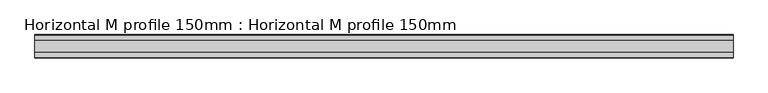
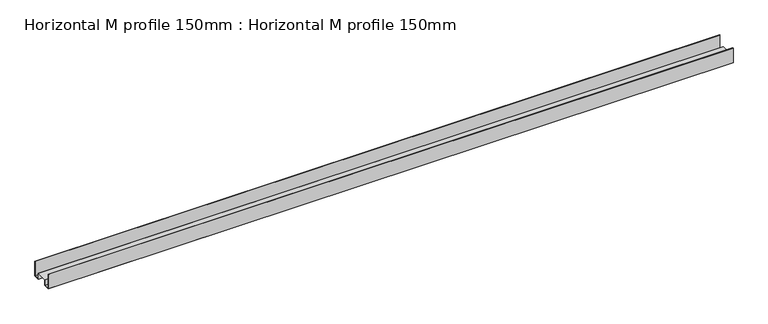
"""IFC4 building model written with IfcOpenShell, lengths in millimetres: proxy geometry, Horizontal M profile 150mm : Horizontal M profile 150mm."""

from ifc_helpers import new_model, si_unit, frame, origin, place, context, project, spatial, polyline, outline, extrude, source, transform, mapped, element, save


def horizontal_m_profile_150mm_horizontal_m_profile_150mm_1a6e84d7(model_context):
    return source(origin(), model_context, "Body", "SweptSolid", [
        extrude(outline(polyline([(-75.1472219, 0.0), (-75.1472219, 100.0), (-73.9472219, 100.0), (-73.9472219, 1.2), (-36.3472219, 1.2), (-36.3472219, 40.722552), (36.0527781, 40.722552), (36.0527781, 1.2), (73.6527781, 1.2), (73.6527781, 100.0), (74.8527781, 100.0), (74.8527781, 0.0), (34.8527781, 0.0), (34.8527781, 39.522552), (-35.1472219, 39.522552), (-35.1472219, 0.0), (-75.1472219, 0.0)])), frame((0.0, 0.0, 0.0), z_axis=(1.0, 0.0, 0.0), x_axis=(0.0, 1.0, 0.0)), (0.0, 0.0, 1.0), 4470.8683241),
    ])


if __name__ == "__main__":
    model = new_model("IFC4")
    model_context = context("Model", 3, world=origin())
    ifc_project = project(units=[si_unit("LENGTHUNIT", "METRE", prefix="MILLI")], contexts=[model_context])
    site = spatial("IfcSite", under=ifc_project)
    building = spatial("IfcBuilding", under=site)
    placement = place(None, origin())
    horizontal_m_profile_150mm_horizontal_m_profile_150mm_shape = horizontal_m_profile_150mm_horizontal_m_profile_150mm_1a6e84d7(model_context)
    element("IfcBuildingElementProxy", 1, Name="Horizontal M profile 150mm : Horizontal M profile 150mm", ObjectType="Horizontal M profile 150mm : Horizontal M profile 150mm", at=placement, inside=building, context=model_context, shape_type="MappedRepresentation", body=[
        mapped(horizontal_m_profile_150mm_horizontal_m_profile_150mm_shape, transform((0.0, 0.0, 0.0), x_axis=(1.0, 0.0, 0.0), y_axis=(0.0, 1.0, 0.0), z_axis=(0.0, 0.0, 1.0))),
    ])
    save(model, "model.ifc")
